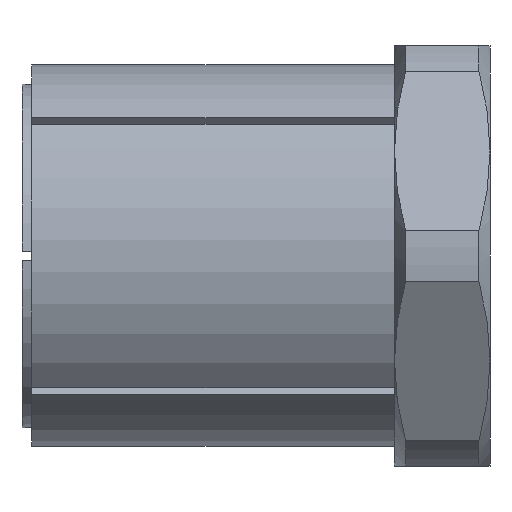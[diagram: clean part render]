
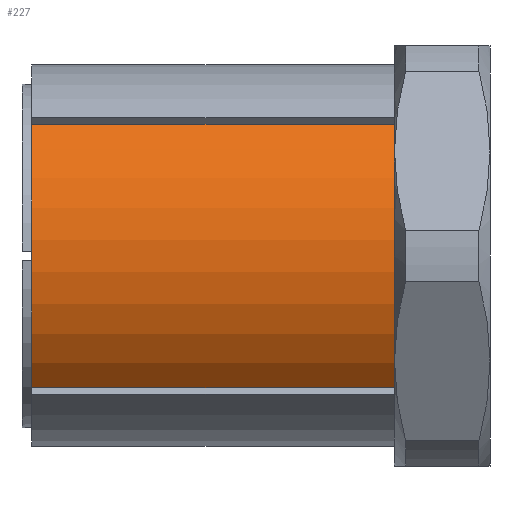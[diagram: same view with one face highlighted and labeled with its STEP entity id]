
A CAD part, front view. The second image highlights one B-rep face of the part: STEP entity #227.
In plain terms, the highlighted cylindrical face has radius 10 mm (diameter 20 mm), a partial arc.
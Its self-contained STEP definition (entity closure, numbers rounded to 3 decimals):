
#32 = CIRCLE ( 'NONE', #308, 10. ) ;
#39 = VECTOR ( 'NONE', #937, 1000. ) ;
#40 = FACE_OUTER_BOUND ( 'NONE', #2570, .T. ) ;
#44 = LINE ( 'NONE', #946, #39 ) ;
#50 = CYLINDRICAL_SURFACE ( 'NONE', #2052, 10. ) ;
#216 = EDGE_CURVE ( 'NONE', #1853, #1858, #32, .T. ) ;
#225 = EDGE_CURVE ( 'NONE', #1901, #1858, #44, .T. ) ;
#227 = ADVANCED_FACE ( 'NONE', ( #40 ), #50, .T. ) ;
#308 = AXIS2_PLACEMENT_3D ( 'NONE', #965, #963, #962 ) ;
#577 = LINE ( 'NONE', #1784, #579 ) ;
#579 = VECTOR ( 'NONE', #1785, 1000. ) ;
#582 = CIRCLE ( 'NONE', #2185, 10. ) ;
#933 = CARTESIAN_POINT ( 'NONE',  ( 0., 0., 0. ) ) ;
#934 = DIRECTION ( 'NONE',  ( -1., 0., 0. ) ) ;
#935 = DIRECTION ( 'NONE',  ( 0., 0., 1. ) ) ;
#937 = DIRECTION ( 'NONE',  ( -1., 0., 0. ) ) ;
#946 = CARTESIAN_POINT ( 'NONE',  ( 0., -7.246, 6.892 ) ) ;
#962 = DIRECTION ( 'NONE',  ( 0., 0., 1. ) ) ;
#963 = DIRECTION ( 'NONE',  ( -1., 0., 0. ) ) ;
#965 = CARTESIAN_POINT ( 'NONE',  ( 0., 0., 0. ) ) ;
#1666 = CARTESIAN_POINT ( 'NONE',  ( 0., -7.246, -6.892 ) ) ;
#1668 = CARTESIAN_POINT ( 'NONE',  ( 0., -7.246, 6.892 ) ) ;
#1670 = CARTESIAN_POINT ( 'NONE',  ( 19., -7.246, 6.892 ) ) ;
#1671 = CARTESIAN_POINT ( 'NONE',  ( 19., -7.246, -6.892 ) ) ;
#1773 = CARTESIAN_POINT ( 'NONE',  ( 19., 0., 0. ) ) ;
#1780 = DIRECTION ( 'NONE',  ( -1., 0., 0. ) ) ;
#1782 = DIRECTION ( 'NONE',  ( 0., 0., 1. ) ) ;
#1784 = CARTESIAN_POINT ( 'NONE',  ( 0., -7.246, -6.892 ) ) ;
#1785 = DIRECTION ( 'NONE',  ( 1., 0., 0. ) ) ;
#1853 = VERTEX_POINT ( 'NONE', #1666 ) ;
#1858 = VERTEX_POINT ( 'NONE', #1668 ) ;
#1901 = VERTEX_POINT ( 'NONE', #1670 ) ;
#1904 = VERTEX_POINT ( 'NONE', #1671 ) ;
#1948 = EDGE_CURVE ( 'NONE', #1904, #1901, #582, .T. ) ;
#1949 = EDGE_CURVE ( 'NONE', #1853, #1904, #577, .T. ) ;
#2052 = AXIS2_PLACEMENT_3D ( 'NONE', #933, #934, #935 ) ;
#2185 = AXIS2_PLACEMENT_3D ( 'NONE', #1773, #1780, #1782 ) ;
#2478 = ORIENTED_EDGE ( 'NONE', *, *, #1949, .T. ) ;
#2479 = ORIENTED_EDGE ( 'NONE', *, *, #216, .F. ) ;
#2480 = ORIENTED_EDGE ( 'NONE', *, *, #225, .T. ) ;
#2481 = ORIENTED_EDGE ( 'NONE', *, *, #1948, .T. ) ;
#2570 = EDGE_LOOP ( 'NONE', ( #2481, #2480, #2479, #2478 ) ) ;
